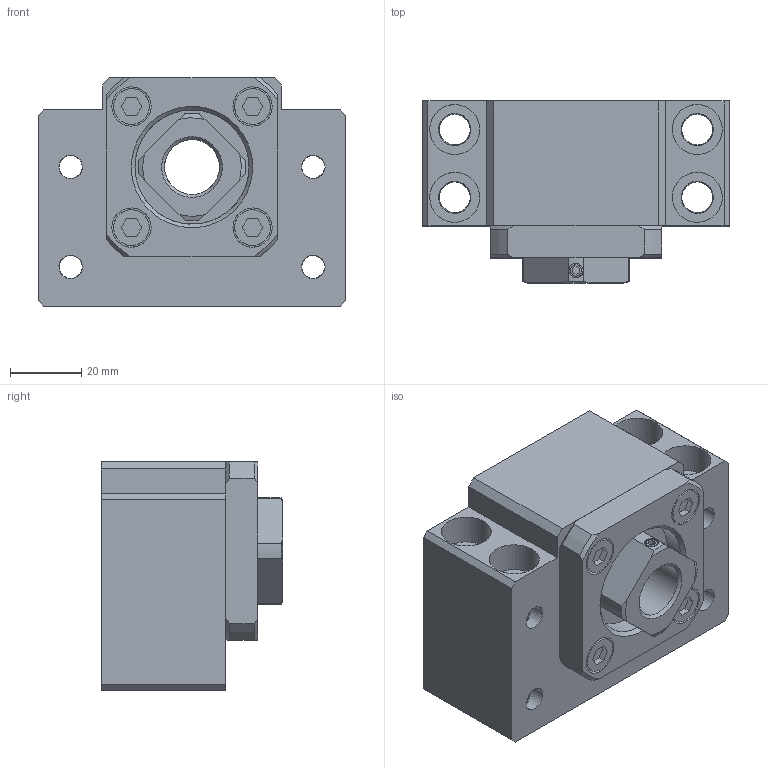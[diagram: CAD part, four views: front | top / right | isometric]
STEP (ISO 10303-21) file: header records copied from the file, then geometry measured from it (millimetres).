
FILE_DESCRIPTION( ('This file contains a STEP AP42 implementation' ,'as created by ZW3D STEP Interface translator.') ,'2;1' );
FILE_NAME( '2DDB9B14-E935-5F45-8702-D30E735899DD.stp' ,'18 315.17 0 8', (''), ('ZWCAD Software Co.'), 'Version 1.0', 'ZW3D to STEP translator', '' );
FILE_SCHEMA( ('CONFIG_CONTROL_DESIGN') );
Length unit declared in the file: millimetre
Products named in the file (4): 0; NSFBK-17; _BK 17collar; _BK 17
Assembly tree (2 placements, depth 2):
  0
  NSFBK-17
    _BK 17collar
    _BK 17
Bounding box: 86 x 51 x 64 mm (x, y, z)
Volume: 172980.7 mm3; surface area: 43721.6 mm2
Topology: 2 solids, 3 shells, 161 faces, 411 edges, 275 vertices
Faces by surface type: bspline 161
Entity records: 6329 total; most frequent: CARTESIAN_POINT 3580, ORIENTED_EDGE 822, EDGE_CURVE 411, B_SPLINE_CURVE_WITH_KNOTS 296, VERTEX_POINT 275, EDGE_LOOP 216, FACE_OUTER_BOUND 161, ADVANCED_FACE 161
